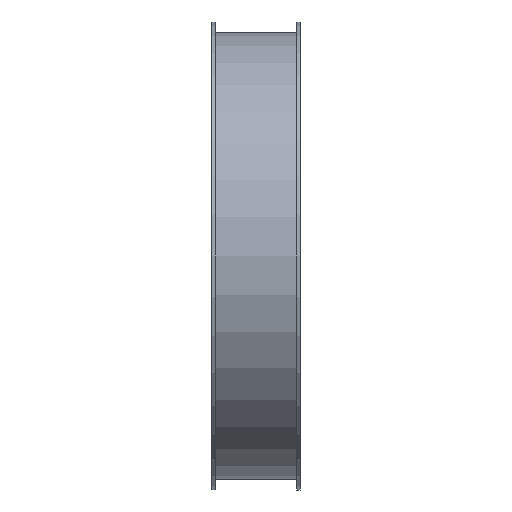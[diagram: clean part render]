
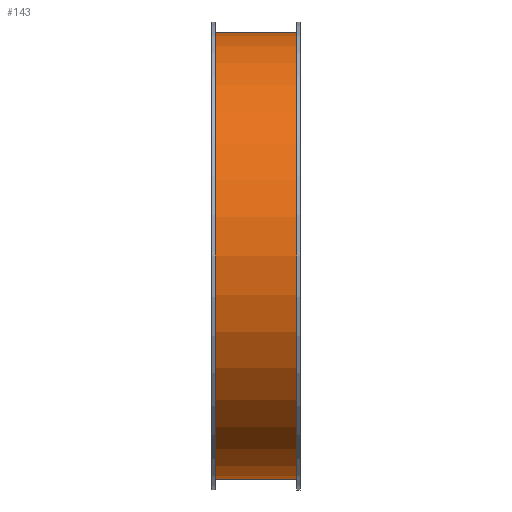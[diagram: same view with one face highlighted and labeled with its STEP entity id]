
A CAD part, front view. The second image highlights one B-rep face of the part: STEP entity #143.
In plain terms, the highlighted cylindrical face has radius 126.5 mm (diameter 253 mm), a full revolution.
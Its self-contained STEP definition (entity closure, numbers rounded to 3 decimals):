
#112=CARTESIAN_POINT('',(16.119,2.817,0.0));
#113=VERTEX_POINT('',#112);
#114=CARTESIAN_POINT('',(16.119,129.317,0.0));
#115=DIRECTION('',(-1.0,0.0,0.0));
#116=DIRECTION('',(0.0,-1.0,0.0));
#117=AXIS2_PLACEMENT_3D('',#114,#115,#116);
#118=CIRCLE('',#117,126.5);
#119=EDGE_CURVE('',#113,#113,#118,.T.);
#124=CARTESIAN_POINT('',(-6.881,129.317,0.0));
#125=DIRECTION('',(-1.0,0.,0.0));
#126=DIRECTION('',(0.0,-1.0,0.0));
#127=AXIS2_PLACEMENT_3D('',#124,#125,#126);
#128=CYLINDRICAL_SURFACE('',#127,126.5);
#129=CARTESIAN_POINT('',(-29.881,2.817,0.0));
#130=VERTEX_POINT('',#129);
#131=CARTESIAN_POINT('',(-29.881,129.317,0.0));
#132=DIRECTION('',(-1.0,0.0,0.0));
#133=DIRECTION('',(0.0,-1.0,0.0));
#134=AXIS2_PLACEMENT_3D('',#131,#132,#133);
#135=CIRCLE('',#134,126.5);
#136=EDGE_CURVE('',#130,#130,#135,.T.);
#137=ORIENTED_EDGE('',*,*,#136,.F.);
#138=EDGE_LOOP('',(#137));
#139=FACE_OUTER_BOUND('',#138,.T.);
#140=ORIENTED_EDGE('',*,*,#119,.T.);
#141=EDGE_LOOP('',(#140));
#142=FACE_BOUND('',#141,.T.);
#143=ADVANCED_FACE('',(#139,#142),#128,.T.);
